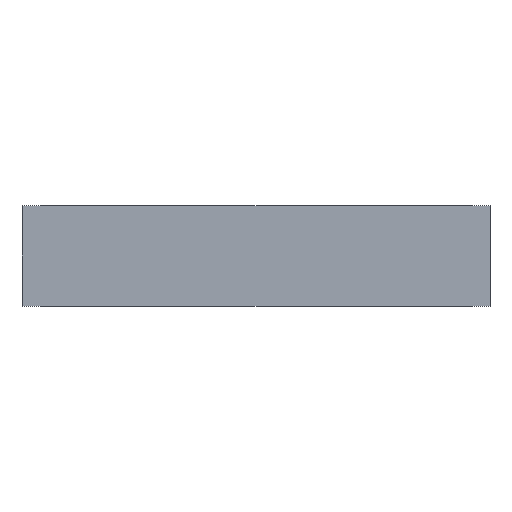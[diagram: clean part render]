
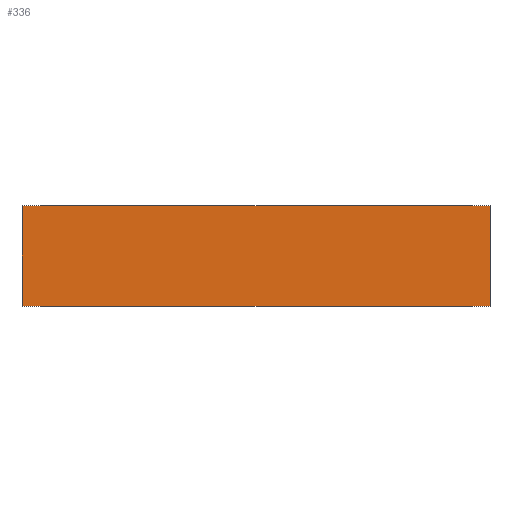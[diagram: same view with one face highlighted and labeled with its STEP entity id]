
A CAD part, front view. The second image highlights one B-rep face of the part: STEP entity #336.
In plain terms, the highlighted planar face has unit normal (0, -1, 0).
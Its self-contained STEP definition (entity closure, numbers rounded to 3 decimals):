
#4 = EDGE_CURVE ( 'NONE', #513, #571, #222, .T. ) ;
#9 = EDGE_CURVE ( 'NONE', #571, #549, #213, .T. ) ;
#17 = EDGE_CURVE ( 'NONE', #513, #519, #201, .T. ) ;
#46 = AXIS2_PLACEMENT_3D ( 'NONE', #402, #396, #395 ) ;
#49 = EDGE_CURVE ( 'NONE', #519, #549, #170, .T. ) ;
#107 = FACE_OUTER_BOUND ( 'NONE', #235, .T. ) ;
#169 = VECTOR ( 'NONE', #537, 1000. ) ;
#170 = LINE ( 'NONE', #539, #169 ) ;
#201 = LINE ( 'NONE', #369, #203 ) ;
#203 = VECTOR ( 'NONE', #338, 1000. ) ;
#206 = VECTOR ( 'NONE', #405, 1000. ) ;
#213 = LINE ( 'NONE', #418, #206 ) ;
#216 = VECTOR ( 'NONE', #450, 1000. ) ;
#222 = LINE ( 'NONE', #466, #216 ) ;
#235 = EDGE_LOOP ( 'NONE', ( #249, #250, #251, #252 ) ) ;
#249 = ORIENTED_EDGE ( 'NONE', *, *, #49, .T. ) ;
#250 = ORIENTED_EDGE ( 'NONE', *, *, #9, .F. ) ;
#251 = ORIENTED_EDGE ( 'NONE', *, *, #4, .F. ) ;
#252 = ORIENTED_EDGE ( 'NONE', *, *, #17, .T. ) ;
#336 = ADVANCED_FACE ( 'NONE', ( #107 ), #407, .F. ) ;
#338 = DIRECTION ( 'NONE',  ( 0., 0., -1. ) ) ;
#368 = CARTESIAN_POINT ( 'NONE',  ( 151., 0., 65. ) ) ;
#369 = CARTESIAN_POINT ( 'NONE',  ( -151., 0., 65. ) ) ;
#376 = CARTESIAN_POINT ( 'NONE',  ( 151., 0., 0. ) ) ;
#387 = CARTESIAN_POINT ( 'NONE',  ( -151., 0., 0. ) ) ;
#394 = CARTESIAN_POINT ( 'NONE',  ( -151., 0., 65. ) ) ;
#395 = DIRECTION ( 'NONE',  ( -1., 0., 0. ) ) ;
#396 = DIRECTION ( 'NONE',  ( 0., 1., 0. ) ) ;
#402 = CARTESIAN_POINT ( 'NONE',  ( -151., 0., 65. ) ) ;
#405 = DIRECTION ( 'NONE',  ( 0., 0., -1. ) ) ;
#407 = PLANE ( 'NONE',  #46 ) ;
#418 = CARTESIAN_POINT ( 'NONE',  ( 151., 0., 65. ) ) ;
#450 = DIRECTION ( 'NONE',  ( 1., 0., 0. ) ) ;
#466 = CARTESIAN_POINT ( 'NONE',  ( -151., 0., 65. ) ) ;
#513 = VERTEX_POINT ( 'NONE', #394 ) ;
#519 = VERTEX_POINT ( 'NONE', #387 ) ;
#537 = DIRECTION ( 'NONE',  ( 1., 0., 0. ) ) ;
#539 = CARTESIAN_POINT ( 'NONE',  ( -151., 0., 0. ) ) ;
#549 = VERTEX_POINT ( 'NONE', #376 ) ;
#571 = VERTEX_POINT ( 'NONE', #368 ) ;
